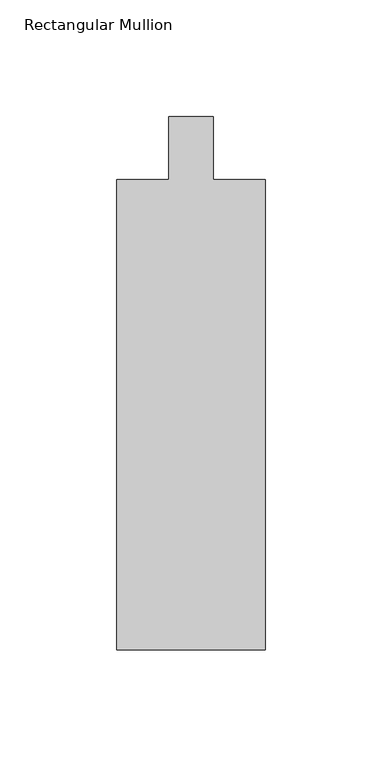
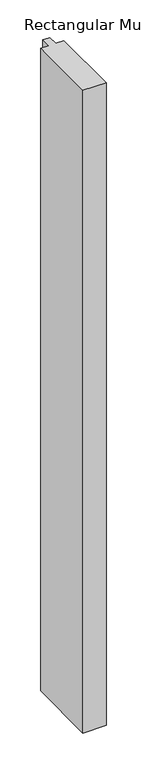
"""IFC4 building model written with IfcOpenShell, lengths in millimetres: member geometry."""

from ifc_helpers import new_model, si_unit, frame, origin, place, context, project, spatial, polyline, outline, extrude, source, transform, mapped, element, save


def rectangular_mullion_1dcdddb2(model_context):
    return source(origin(), model_context, "Body", "SweptSolid", [
        extrude(outline(polyline([(0.0, -228.6), (-63.5, -228.6), (-63.5, -26.9875), (-41.275, -26.9875), (-41.275, 0.0), (-22.225, 0.0), (-22.225, -26.9875), (0.0, -26.9875), (0.0, -228.6)])), frame((0.0, 0.0, -1866.9), z_axis=(0.0, 0.0, 1.0), x_axis=(1.0, 0.0, 0.0)), (0.0, 0.0, 1.0), 1866.9),
    ])


if __name__ == "__main__":
    model = new_model("IFC4")
    model_context = context("Model", 3, world=origin())
    ifc_project = project(units=[si_unit("LENGTHUNIT", "METRE", prefix="MILLI")], contexts=[model_context])
    site = spatial("IfcSite", under=ifc_project)
    building = spatial("IfcBuilding", under=site)
    placement = place(None, origin())
    rectangular_mullion_shape = rectangular_mullion_1dcdddb2(model_context)
    element("IfcMember", 1, ObjectType="Rectangular Mullion : 2 1/2\" x 8\" - Capless", at=placement, inside=building, context=model_context, shape_type="MappedRepresentation", body=[
        mapped(rectangular_mullion_shape, transform((0.0, 0.0, 0.0), x_axis=(1.0, 0.0, 0.0), y_axis=(0.0, 1.0, 0.0), z_axis=(0.0, 0.0, 1.0))),
    ])
    save(model, "model.ifc")
